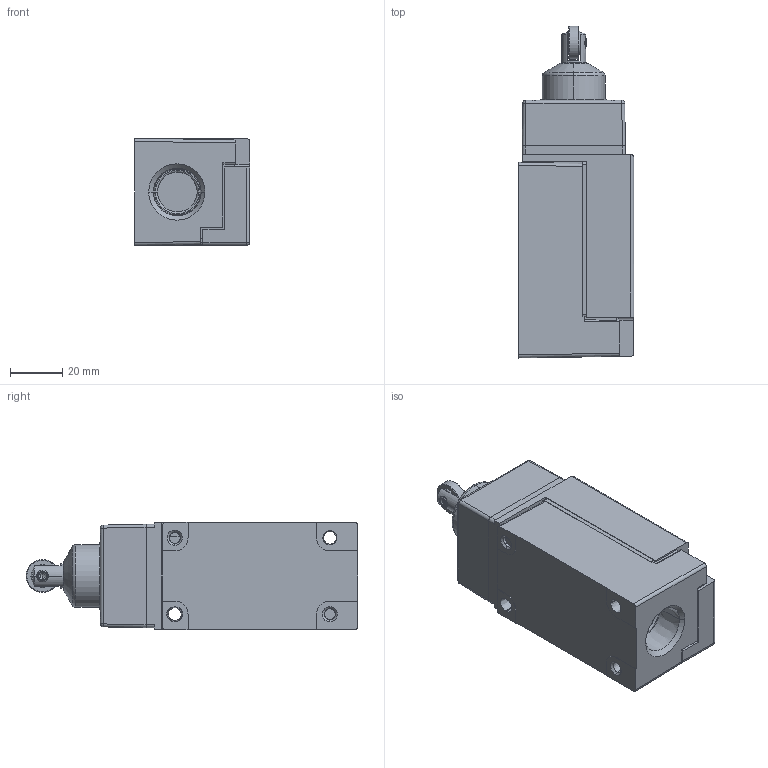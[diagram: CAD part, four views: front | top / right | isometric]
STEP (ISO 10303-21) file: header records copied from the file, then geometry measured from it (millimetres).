
FILE_DESCRIPTION((''),'2;1');
FILE_NAME('LSD1A','2012-12-06T',('E522935'),(''),'PRO/ENGINEER BY PARAMETRIC TECHNOLOGY CORPORATION, 2009460','PRO/ENGINEER BY PARAMETRIC TECHNOLOGY CORPORATION, 2009460','');
FILE_SCHEMA(('CONFIG_CONTROL_DESIGN'));
Length unit declared in the file: inch
Products named in the file (1): LSD1A
Bounding box: 44.32 x 127.46 x 41.15 mm (x, y, z)
Volume: 169137 mm3; surface area: 25457.2 mm2
Topology: 1 solids, 1 shells, 713 faces, 1886 edges, 1195 vertices
Faces by surface type: plane 424, cylinder 199, cone 43, sphere 17, bspline 16, torus 14
Entity records: 22934 total; most frequent: CARTESIAN_POINT 5294, ORIENTED_EDGE 3768, DIRECTION 3614, EDGE_CURVE 1884, AXIS2_PLACEMENT_3D 1275, VERTEX_POINT 1195, VECTOR 1064, LINE 1064
